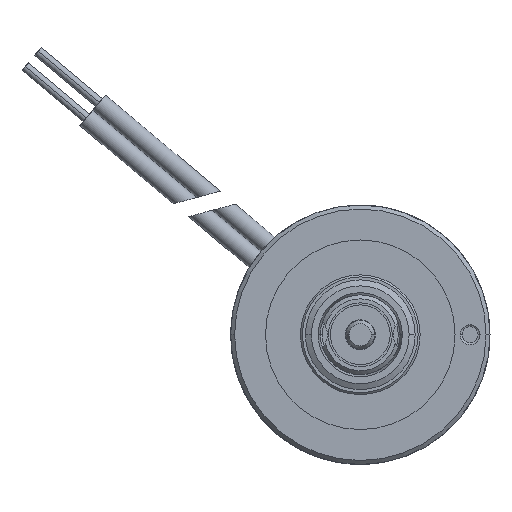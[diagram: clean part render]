
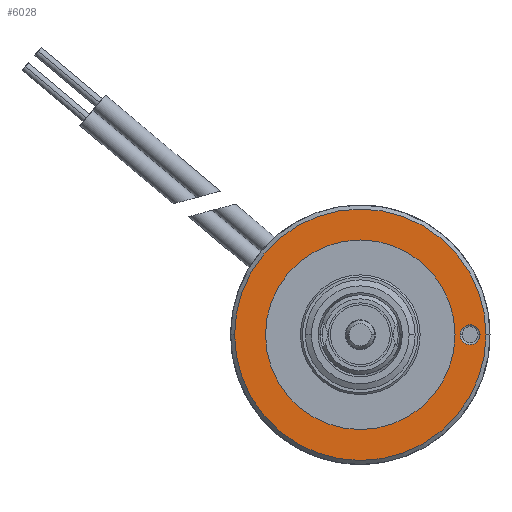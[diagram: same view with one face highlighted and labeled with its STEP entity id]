
A CAD part, left-side view. The second image highlights one B-rep face of the part: STEP entity #6028.
In plain terms, the highlighted planar face has unit normal (-1, 0, 0).
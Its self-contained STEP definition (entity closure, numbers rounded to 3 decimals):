
#485=CARTESIAN_POINT('',(0.,0.,0.));
#486=DIRECTION('',(1.,0.,0.));
#487=DIRECTION('',(0.,1.,0.));
#488=AXIS2_PLACEMENT_3D('',#485,#486,#487);
#500=CARTESIAN_POINT('',(0.,0.,0.));
#501=DIRECTION('',(-1.,0.,0.));
#502=DIRECTION('',(0.,1.,0.));
#503=AXIS2_PLACEMENT_3D('',#500,#501,#502);
#508=CARTESIAN_POINT('',(0.,0.,0.));
#509=DIRECTION('',(-1.,0.,0.));
#510=DIRECTION('',(0.,1.,0.));
#511=AXIS2_PLACEMENT_3D('',#508,#509,#510);
#516=CARTESIAN_POINT('',(0.,0.,0.));
#517=DIRECTION('',(-1.,0.,0.));
#518=DIRECTION('',(0.,-1.,0.));
#519=AXIS2_PLACEMENT_3D('',#516,#517,#518);
#524=CARTESIAN_POINT('',(0.,-5.5,0.));
#525=DIRECTION('',(1.,0.,0.));
#526=DIRECTION('',(0.,1.,0.));
#527=AXIS2_PLACEMENT_3D('',#524,#525,#526);
#532=CARTESIAN_POINT('',(0.,-5.5,0.));
#533=DIRECTION('',(1.,0.,0.));
#534=DIRECTION('',(0.,-1.,0.));
#535=AXIS2_PLACEMENT_3D('',#532,#533,#534);
#5154=CARTESIAN_POINT('',(0.,4.75,0.));
#5156=VERTEX_POINT('',#5154);
#5158=CARTESIAN_POINT('',(0.,-4.75,0.));
#5160=VERTEX_POINT('',#5158);
#5170=CARTESIAN_POINT('',(0.,-5.,0.));
#5171=CARTESIAN_POINT('',(0.,-6.,0.));
#5172=VERTEX_POINT('',#5170);
#5173=VERTEX_POINT('',#5171);
#5198=CARTESIAN_POINT('',(0.,6.3,0.));
#5199=CARTESIAN_POINT('',(0.,-6.3,0.));
#5200=VERTEX_POINT('',#5198);
#5201=VERTEX_POINT('',#5199);
#6007=CARTESIAN_POINT('',(0.,0.,0.));
#6008=DIRECTION('',(-1.,0.,0.));
#6009=DIRECTION('',(0.,1.,0.));
#6010=AXIS2_PLACEMENT_3D('',#6007,#6008,#6009);
#6011=PLANE('',#6010);
#6013=ORIENTED_EDGE('',*,*,#6012,.F.);
#6015=ORIENTED_EDGE('',*,*,#6014,.F.);
#6016=EDGE_LOOP('',(#6013,#6015));
#6017=FACE_OUTER_BOUND('',#6016,.F.);
#6018=ORIENTED_EDGE('',*,*,#6002,.T.);
#6019=ORIENTED_EDGE('',*,*,#5986,.F.);
#6020=EDGE_LOOP('',(#6018,#6019));
#6021=FACE_BOUND('',#6020,.F.);
#6023=ORIENTED_EDGE('',*,*,#6022,.F.);
#6025=ORIENTED_EDGE('',*,*,#6024,.F.);
#6026=EDGE_LOOP('',(#6023,#6025));
#6027=FACE_BOUND('',#6026,.F.);
#6028=ADVANCED_FACE('',(#6017,#6021,#6027),#6011,.T.);
#489=CIRCLE('',#488,4.75);
#504=CIRCLE('',#503,4.75);
#512=CIRCLE('',#511,6.3);
#520=CIRCLE('',#519,6.3);
#528=CIRCLE('',#527,0.5);
#536=CIRCLE('',#535,0.5);
#5986=EDGE_CURVE('',#5156,#5160,#489,.T.);
#6002=EDGE_CURVE('',#5156,#5160,#504,.T.);
#6012=EDGE_CURVE('',#5200,#5201,#512,.T.);
#6014=EDGE_CURVE('',#5201,#5200,#520,.T.);
#6022=EDGE_CURVE('',#5172,#5173,#528,.T.);
#6024=EDGE_CURVE('',#5173,#5172,#536,.T.);
